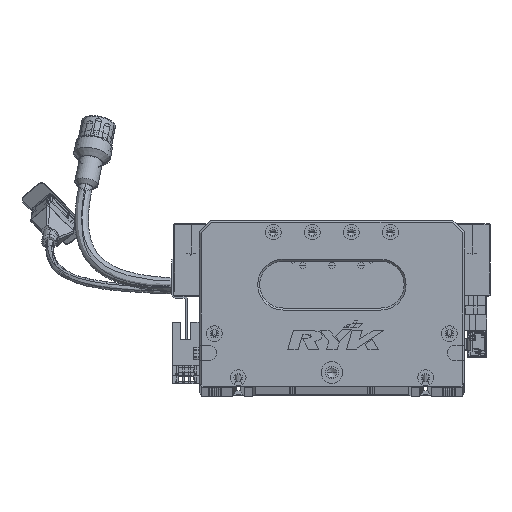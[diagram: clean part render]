
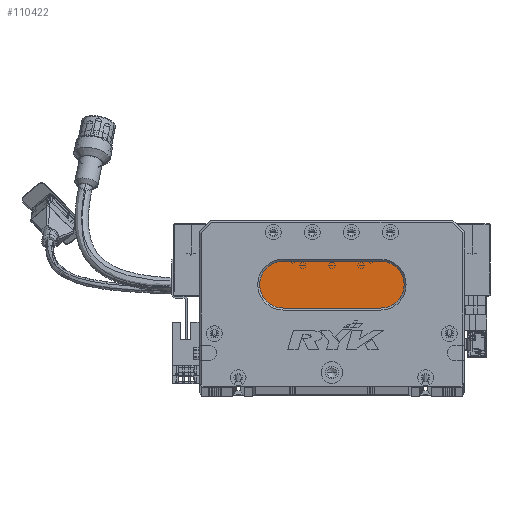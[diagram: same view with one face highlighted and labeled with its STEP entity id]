
A CAD part, top view. The second image highlights one B-rep face of the part: STEP entity #110422.
In plain terms, the highlighted planar face has unit normal (0, 0, 1) as drawn and (0, 0, -1) by its records, which use the part's own axes.
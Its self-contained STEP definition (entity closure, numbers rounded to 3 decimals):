
#4524 = VERTEX_POINT ( 'NONE', #75728 ) ;
#11466 = DIRECTION ( 'NONE',  ( 1., 0., 0. ) ) ;
#12774 = ORIENTED_EDGE ( 'NONE', *, *, #129285, .T. ) ;
#16530 = EDGE_LOOP ( 'NONE', ( #100394, #93661, #109194, #12774, #91015 ) ) ;
#18913 = LINE ( 'NONE', #74145, #67310 ) ;
#19597 = CIRCLE ( 'NONE', #77698, 12. ) ;
#27602 = AXIS2_PLACEMENT_3D ( 'NONE', #131542, #122029, #70579 ) ;
#29470 = DIRECTION ( 'NONE',  ( 0., 0., -1. ) ) ;
#31112 = CIRCLE ( 'NONE', #27602, 12. ) ;
#32797 = CARTESIAN_POINT ( 'NONE',  ( 43., 52., 13. ) ) ;
#41799 = DIRECTION ( 'NONE',  ( -1., 0., 0. ) ) ;
#43791 = DIRECTION ( 'NONE',  ( -1., 0., 0. ) ) ;
#52003 = EDGE_CURVE ( 'NONE', #96793, #111985, #71676, .T. ) ;
#56360 = CARTESIAN_POINT ( 'NONE',  ( 93., 40., 13. ) ) ;
#61856 = CARTESIAN_POINT ( 'NONE',  ( 43., 40., 13. ) ) ;
#62616 = CARTESIAN_POINT ( 'NONE',  ( 93., 64., 13. ) ) ;
#67310 = VECTOR ( 'NONE', #11466, 1000. ) ;
#67597 = CIRCLE ( 'NONE', #90142, 12. ) ;
#68355 = EDGE_CURVE ( 'NONE', #109798, #96793, #31112, .T. ) ;
#68411 = VECTOR ( 'NONE', #119104, 1000. ) ;
#70579 = DIRECTION ( 'NONE',  ( -1., 0., 0. ) ) ;
#71676 = LINE ( 'NONE', #56360, #68411 ) ;
#73806 = DIRECTION ( 'NONE',  ( 0., 0., -1. ) ) ;
#74145 = CARTESIAN_POINT ( 'NONE',  ( 93., 64., 13. ) ) ;
#75728 = CARTESIAN_POINT ( 'NONE',  ( 31., 52., 13. ) ) ;
#77698 = AXIS2_PLACEMENT_3D ( 'NONE', #111074, #29470, #111531 ) ;
#84803 = DIRECTION ( 'NONE',  ( 0., 0., -1. ) ) ;
#90142 = AXIS2_PLACEMENT_3D ( 'NONE', #32797, #73806, #41799 ) ;
#91015 = ORIENTED_EDGE ( 'NONE', *, *, #111604, .T. ) ;
#93661 = ORIENTED_EDGE ( 'NONE', *, *, #52003, .T. ) ;
#96793 = VERTEX_POINT ( 'NONE', #108003 ) ;
#100394 = ORIENTED_EDGE ( 'NONE', *, *, #68355, .T. ) ;
#101448 = FACE_OUTER_BOUND ( 'NONE', #16530, .T. ) ;
#103399 = EDGE_CURVE ( 'NONE', #111985, #4524, #67597, .T. ) ;
#105568 = PLANE ( 'NONE',  #108948 ) ;
#108003 = CARTESIAN_POINT ( 'NONE',  ( 93., 40., 13. ) ) ;
#108948 = AXIS2_PLACEMENT_3D ( 'NONE', #116862, #84803, #43791 ) ;
#109194 = ORIENTED_EDGE ( 'NONE', *, *, #103399, .T. ) ;
#109798 = VERTEX_POINT ( 'NONE', #62616 ) ;
#110422 = ADVANCED_FACE ( 'NONE', ( #101448 ), #105568, .T. ) ;
#111074 = CARTESIAN_POINT ( 'NONE',  ( 43., 52., 13. ) ) ;
#111531 = DIRECTION ( 'NONE',  ( -1., 0., 0. ) ) ;
#111604 = EDGE_CURVE ( 'NONE', #133558, #109798, #18913, .T. ) ;
#111985 = VERTEX_POINT ( 'NONE', #61856 ) ;
#112033 = CARTESIAN_POINT ( 'NONE',  ( 43., 64., 13. ) ) ;
#116862 = CARTESIAN_POINT ( 'NONE',  ( 93., 52., 13. ) ) ;
#119104 = DIRECTION ( 'NONE',  ( -1., 0., 0. ) ) ;
#122029 = DIRECTION ( 'NONE',  ( 0., 0., -1. ) ) ;
#129285 = EDGE_CURVE ( 'NONE', #4524, #133558, #19597, .T. ) ;
#131542 = CARTESIAN_POINT ( 'NONE',  ( 93., 52., 13. ) ) ;
#133558 = VERTEX_POINT ( 'NONE', #112033 ) ;
